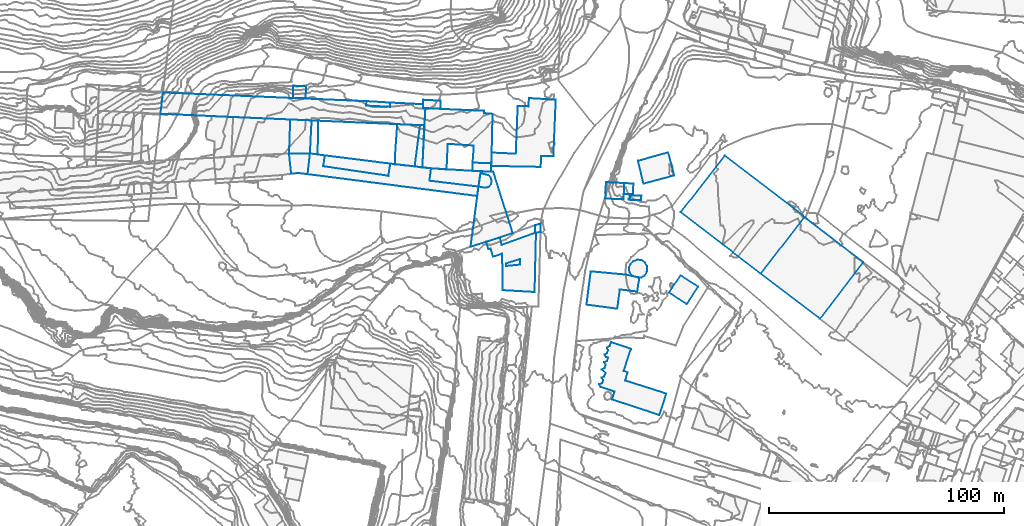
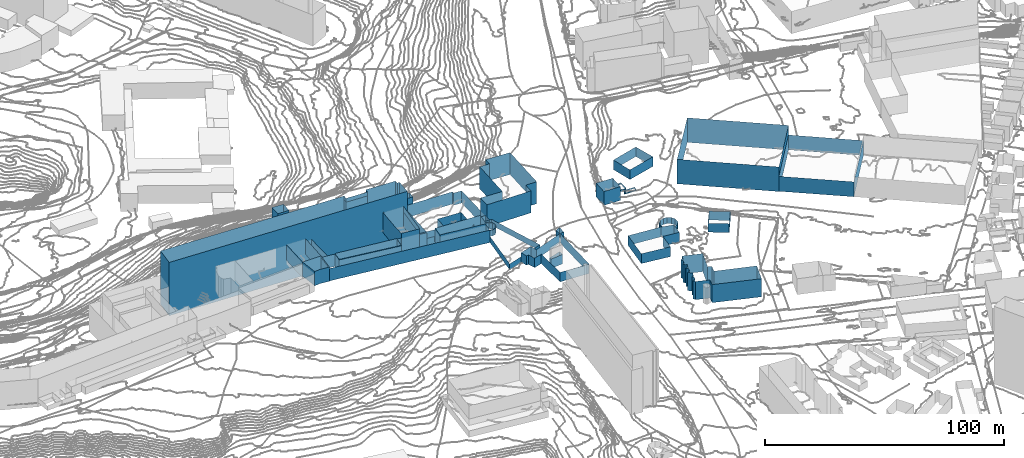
# Not in any storey, part 44 of 419: 28 walls.
"""IFC2X3 model written with IfcOpenShell, lengths in metres."""

from ifc_helpers import new_model, si_unit, frame, origin_with_axes, place, context, subcontext, project, faceted_brep, element, save


model = new_model("IFC2X3")

# Units and contexts
model_context = context("Model", 3, precision=1e-05, world=origin_with_axes())
body_context = subcontext(model_context, "Body", "Model", "MODEL_VIEW")
ifc_project = project(units=[si_unit("AREAUNIT", "SQUARE_METRE"), si_unit("LENGTHUNIT", "METRE")], contexts=[model_context])

# Walls
wall_1_placement = place(None, frame((724.8920204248, 307.2976909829, 79.5649978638), z_axis=(0.0, 0.0, 1.0), x_axis=(1.0, 0.0, 0.0)))
element("IfcWall", 1, at=wall_1_placement, Name="Mur 0", context=body_context, shape_type="Brep", body=[
    faceted_brep([(3.8999999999, -0.2000000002, 0.9350021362), (0.0, 0.0, 0.9350021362), (3.8999999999, -0.2000000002, 0.0), (0.0, 0.0, 0.0), (4.1, 4.3999999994, 0.9350021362), (4.1, 4.3999999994, 0.0), (0.2, 4.5999999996, 0.9350021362), (0.2, 4.5999999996, 0.0)], [[[0, 1, 2]], [[2, 1, 3]], [[4, 0, 5]], [[5, 0, 2]], [[1, 6, 3]], [[3, 6, 7]], [[6, 4, 7]], [[7, 4, 5]]]),
])
wall_2_placement = place(None, frame((582.2920204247, 324.4976909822, 76.1870000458), z_axis=(0.0, 0.0, 1.0), x_axis=(1.0, 0.0, 0.0)))
element("IfcWall", 2, at=wall_2_placement, Name="Mur 0", context=body_context, shape_type="Brep", body=[
    faceted_brep([(8.9, 0.0, 7.3129999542), (7.9, -8.7999999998, 7.3129999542), (8.9, 0.0, 0.0), (7.9, -8.7999999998, 0.0), (0.0, 0.0, 7.3129999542), (0.0, 0.0, 0.0), (0.9, -8.5999999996, 7.3129999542), (0.9, -8.5999999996, 0.0), (3.7000000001, -8.2999999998, 7.3129999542), (3.7000000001, -8.2999999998, 0.0)], [[[0, 1, 2]], [[2, 1, 3]], [[4, 0, 5]], [[5, 0, 2]], [[6, 4, 7]], [[7, 4, 5]], [[1, 8, 3]], [[3, 8, 9]], [[8, 6, 9]], [[9, 6, 7]]]),
])
wall_3_placement = place(None, frame((662.9920204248, 310.3976909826, 76.4266980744), z_axis=(0.0, 0.0, 1.0), x_axis=(1.0, 0.0, 0.0)))
element("IfcWall", 3, at=wall_3_placement, Name="Mur 0", context=body_context, shape_type="Brep", body=[
    faceted_brep([(3.0, -0.5, 3.3733019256), (0.0, 0.0, 3.3733019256), (3.0, -0.5, 0.0), (0.0, 0.0, 0.0), (4.2999999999, -0.0999999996, 3.3733019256), (4.2999999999, -0.0999999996, 0.0), (5.2999999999, 1.0, 3.3733019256), (5.2999999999, 1.0, 0.0), (5.6, 2.5, 3.3733019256), (5.6, 2.5, 0.0), (5.2, 3.9000000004, 3.3733019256), (5.2, 3.9000000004, 0.0), (4.1, 4.9000000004, 3.3733019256), (4.1, 4.9000000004, 0.0), (0.9, 5.7000000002, 3.3733019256), (0.9, 5.7000000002, 0.0)], [[[0, 1, 2]], [[2, 1, 3]], [[4, 0, 5]], [[5, 0, 2]], [[6, 4, 7]], [[7, 4, 5]], [[8, 6, 9]], [[9, 6, 7]], [[10, 8, 11]], [[11, 8, 9]], [[12, 10, 13]], [[13, 10, 11]], [[1, 14, 3]], [[3, 14, 15]], [[14, 12, 15]], [[15, 12, 13]]]),
])
wall_4_placement = place(None, frame((627.3920204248, 319.8976909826, 74.774999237), z_axis=(0.0, 0.0, 1.0), x_axis=(1.0, 0.0, 0.0)))
element("IfcWall", 4, at=wall_4_placement, Name="Mur 0", context=body_context, shape_type="Brep", body=[
    faceted_brep([(0.0, 0.0, 10.325000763), (0.2, 6.4000000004, 10.325000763), (0.0, 0.0, 0.0), (0.2, 6.4000000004, 0.0), (8.3999999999, -0.9000000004, 10.325000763), (8.3999999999, -0.9000000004, 0.0), (10.7, 16.7000000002, 10.325000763), (10.7, 16.7000000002, 0.0), (1.0, 17.0999999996, 10.325000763), (1.0, 17.0999999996, 0.0)], [[[0, 1, 2]], [[2, 1, 3]], [[4, 0, 5]], [[5, 0, 2]], [[6, 4, 7]], [[7, 4, 5]], [[1, 8, 3]], [[3, 8, 9]], [[8, 6, 9]], [[9, 6, 7]]]),
])
wall_5_placement = place(None, frame((749.0920204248, 299.4976909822, 80.233997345), z_axis=(0.0, 0.0, 1.0), x_axis=(1.0, 0.0, 0.0)))
element("IfcWall", 5, at=wall_5_placement, Name="Mur 0", context=body_context, shape_type="Brep", body=[
    faceted_brep([(18.8, 24.1000000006, 12.566002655), (52.1, -1.3999999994, 12.566002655), (18.8, 24.1000000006, 0.0), (52.1, -1.3999999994, 0.0), (0.0, 0.0, 12.566002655), (0.0, 0.0, 0.0), (34.1, -26.1999999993, 12.566002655), (34.1, -26.1999999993, 0.0), (52.7, -2.0, 12.566002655), (52.7, -2.0, 0.0)], [[[0, 1, 2]], [[2, 1, 3]], [[4, 0, 5]], [[5, 0, 2]], [[6, 4, 7]], [[7, 4, 5]], [[1, 8, 3]], [[3, 8, 9]], [[8, 6, 9]], [[9, 6, 7]]]),
])
wall_6_placement = place(None, frame((783.1920204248, 273.2976909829, 80.3804008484), z_axis=(0.0, 0.0, 1.0), x_axis=(1.0, 0.0, 0.0)))
element("IfcWall", 6, at=wall_6_placement, Name="Mur 0", context=body_context, shape_type="Brep", body=[
    faceted_brep([(0.0, 0.0, 7.6195991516), (18.6, 24.1999999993, 7.6195991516), (0.0, 0.0, 0.0), (18.6, 24.1999999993, 0.0), (25.2000000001, -19.2000000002, 7.6195991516), (25.2000000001, -19.2000000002, 0.0), (43.7000000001, 4.8999999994, 7.6195991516), (43.7000000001, 4.8999999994, 0.0)], [[[0, 1, 2]], [[2, 1, 3]], [[4, 0, 5]], [[5, 0, 2]], [[1, 6, 3]], [[3, 6, 7]], [[6, 4, 7]], [[7, 4, 5]]]),
])
wall_7_placement = place(None, frame((726.8920204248, 304.7976909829, 79.458000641), z_axis=(0.0, 0.0, 1.0), x_axis=(1.0, 0.0, 0.0)))
element("IfcWall", 7, at=wall_7_placement, Name="Mur 0", context=body_context, shape_type="Brep", body=[
    faceted_brep([(0.7, 1.8999999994, 0.641999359), (5.5, 1.6999999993, 0.641999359), (0.7, 1.8999999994, 0.0), (5.5, 1.6999999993, 0.0), (0.6, 0.5, 0.641999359), (0.6, 0.5, 0.0), (0.0, 0.5, 0.641999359), (0.0, 0.5, 0.0), (0.0, 0.0, 0.641999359), (0.0, 0.0, 0.0), (5.2999999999, -0.2000000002, 0.641999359), (5.2999999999, -0.2000000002, 0.0)], [[[0, 1, 2]], [[2, 1, 3]], [[4, 0, 5]], [[5, 0, 2]], [[6, 4, 7]], [[7, 4, 5]], [[8, 6, 9]], [[9, 6, 7]], [[1, 10, 3]], [[3, 10, 11]], [[10, 8, 11]], [[11, 8, 9]]]),
])
wall_8_placement = place(None, frame((615.0920204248, 344.8976909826, 72.5699978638), z_axis=(0.0, 0.0, 1.0), x_axis=(1.0, 0.0, 0.0)))
element("IfcWall", 8, at=wall_8_placement, Name="Mur 0", context=body_context, shape_type="Brep", body=[
    faceted_brep([(0.0, 0.0, 17.6300021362), (0.2, 1.9000000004, 17.6300021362), (0.0, 0.0, 0.0), (0.2, 1.9000000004, 0.0), (10.2, -0.5, 17.6300021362), (10.2, -0.5, 0.0), (10.3, 1.2999999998, 17.6300021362), (10.3, 1.2999999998, 0.0)], [[[0, 1, 2]], [[2, 1, 3]], [[4, 0, 5]], [[5, 0, 2]], [[1, 6, 3]], [[3, 6, 7]], [[6, 4, 7]], [[7, 4, 5]]]),
])
wall_9_placement = place(None, frame((583.9920204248, 348.1976909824, 71.1299972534), z_axis=(0.0, 0.0, 1.0), x_axis=(1.0, 0.0, 0.0)))
element("IfcWall", 9, at=wall_9_placement, Name="Mur 0", context=body_context, shape_type="Brep", body=[
    faceted_brep([(5.2999999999, -0.2000000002, 22.0700027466), (0.0, 0.0, 22.0700027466), (5.2999999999, -0.2000000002, 0.0), (0.0, 0.0, 0.0), (5.6, 4.9000000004, 22.0700027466), (5.6, 4.9000000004, 0.0), (0.1, 5.2000000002, 22.0700027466), (0.1, 5.2000000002, 0.0)], [[[0, 1, 2]], [[2, 1, 3]], [[4, 0, 5]], [[5, 0, 2]], [[1, 6, 3]], [[3, 6, 7]], [[6, 4, 7]], [[7, 4, 5]]]),
])
wall_10_placement = place(None, frame((660.4920204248, 317.0976909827, 76.4400024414), z_axis=(0.0, 0.0, 1.0), x_axis=(1.0, 0.0, 0.0)))
element("IfcWall", 10, at=wall_10_placement, Name="Mur 0", context=body_context, shape_type="Brep", body=[
    faceted_brep([(8.0, 3.2999999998, 3.1599975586), (7.7999999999, 0.0999999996, 3.1599975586), (8.0, 3.2999999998, 0.0), (7.7999999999, 0.0999999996, 0.0), (0.0, 3.5, 3.1599975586), (0.0, 3.5, 0.0), (0.0, 0.0, 3.1599975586), (0.0, 0.0, 0.0), (7.7, -0.2999999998, 3.1599975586), (7.7, -0.2999999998, 0.0)], [[[0, 1, 2]], [[2, 1, 3]], [[4, 0, 5]], [[5, 0, 2]], [[6, 4, 7]], [[7, 4, 5]], [[1, 8, 3]], [[3, 8, 9]], [[8, 6, 9]], [[9, 6, 7]]]),
])
wall_11_placement = place(None, frame((714.3920204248, 226.1976909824, 78.0216014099), z_axis=(0.0, 0.0, 1.0), x_axis=(1.0, 0.0, 0.0)))
element("IfcWall", 11, at=wall_11_placement, Name="Mur 0", context=body_context, shape_type="Brep", body=[
    faceted_brep([(6.5, -3.0999999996, 9.2783985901), (5.2, -2.7000000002, 9.2783985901), (6.5, -3.0999999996, 0.0), (5.2, -2.7000000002, 0.0), (5.5, -6.5, 9.2783985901), (5.5, -6.5, 0.0), (25.6, -13.0999999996, 9.2783985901), (25.6, -13.0999999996, 0.0), (28.6, -4.0, 9.2783985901), (28.6, -4.0, 0.0), (11.1, 1.6000000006, 9.2783985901), (11.1, 1.6000000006, 0.0), (12.1, 5.1000000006, 9.2783985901), (12.1, 5.1000000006, 0.0), (10.3999999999, 5.7000000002, 9.2783985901), (10.3999999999, 5.7000000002, 0.0), (13.5, 15.1000000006, 9.2783985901), (13.5, 15.1000000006, 0.0), (5.0, 17.9000000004, 9.2783985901), (5.0, 17.9000000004, 0.0), (4.5, 16.2999999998, 9.2783985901), (4.5, 16.2999999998, 0.0), (3.2999999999, 15.7000000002, 9.2783985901), (3.2999999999, 15.7000000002, 0.0), (3.7999999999, 14.5, 9.2783985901), (3.7999999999, 14.5, 0.0), (3.2999999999, 13.2999999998, 9.2783985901), (3.2999999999, 13.2999999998, 0.0), (2.3999999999, 12.7000000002, 9.2783985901), (2.3999999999, 12.7000000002, 0.0), (2.8999999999, 11.7000000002, 9.2783985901), (2.8999999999, 11.7000000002, 0.0), (3.7999999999, 11.4000000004, 9.2783985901), (3.7999999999, 11.4000000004, 0.0), (3.2999999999, 10.0, 9.2783985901), (3.2999999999, 10.0, 0.0), (2.1, 9.4000000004, 9.2783985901), (2.1, 9.4000000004, 0.0), (2.7999999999, 8.2999999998, 9.2783985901), (2.7999999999, 8.2999999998, 0.0), (2.2999999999, 6.9000000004, 9.2783985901), (2.2999999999, 6.9000000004, 0.0), (1.1, 6.2999999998, 9.2783985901), (1.1, 6.2999999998, 0.0), (2.7, 4.7999999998, 9.2783985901), (2.7, 4.7999999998, 0.0), (2.1, 3.2999999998, 9.2783985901), (2.1, 3.2999999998, 0.0), (1.1, 2.7999999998, 9.2783985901), (1.1, 2.7999999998, 0.0), (1.7, 1.7999999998, 9.2783985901), (1.7, 1.7999999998, 0.0), (1.2999999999, 0.5, 9.2783985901), (1.2999999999, 0.5, 0.0), (0.0, 0.0, 9.2783985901), (0.0, 0.0, 0.0), (0.7, -1.0999999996, 9.2783985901), (0.7, -1.0999999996, 0.0)], [[[0, 1, 2]], [[2, 1, 3]], [[4, 0, 5]], [[5, 0, 2]], [[6, 4, 7]], [[7, 4, 5]], [[8, 6, 9]], [[9, 6, 7]], [[10, 8, 11]], [[11, 8, 9]], [[12, 10, 13]], [[13, 10, 11]], [[14, 12, 15]], [[15, 12, 13]], [[16, 14, 17]], [[17, 14, 15]], [[18, 16, 19]], [[19, 16, 17]], [[20, 18, 21]], [[21, 18, 19]], [[22, 20, 23]], [[23, 20, 21]], [[24, 22, 25]], [[25, 22, 23]], [[26, 24, 27]], [[27, 24, 25]], [[28, 26, 29]], [[29, 26, 27]], [[30, 28, 31]], [[31, 28, 29]], [[32, 30, 33]], [[33, 30, 31]], [[34, 32, 35]], [[35, 32, 33]], [[36, 34, 37]], [[37, 34, 35]], [[38, 36, 39]], [[39, 36, 37]], [[40, 38, 41]], [[41, 38, 39]], [[42, 40, 43]], [[43, 40, 41]], [[44, 42, 45]], [[45, 42, 43]], [[46, 44, 47]], [[47, 44, 45]], [[48, 46, 49]], [[49, 46, 47]], [[50, 48, 51]], [[51, 48, 49]], [[52, 50, 53]], [[53, 50, 51]], [[54, 52, 55]], [[55, 52, 53]], [[1, 56, 3]], [[3, 56, 57]], [[56, 54, 57]], [[57, 54, 55]]]),
])
wall_12_placement = place(None, frame((590.1920204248, 315.6976909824, 76.3650003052), z_axis=(0.0, 0.0, 1.0), x_axis=(1.0, 0.0, 0.0)))
element("IfcWall", 12, at=wall_12_placement, Name="Mur 0", context=body_context, shape_type="Brep", body=[
    faceted_brep([(72.8, -5.2999999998, 6.3349996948), (72.2000000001, -9.2999999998, 6.3349996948), (72.8, -5.2999999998, 0.0), (72.2000000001, -9.2999999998, 0.0), (51.9, -2.7999999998, 6.3349996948), (51.9, -2.7999999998, 0.0), (52.6, 2.5, 6.3349996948), (52.6, 2.5, 0.0), (35.2000000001, 4.5, 6.3349996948), (35.2000000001, 4.5, 0.0), (34.4, -0.7000000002, 6.3349996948), (34.4, -0.7000000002, 0.0), (6.7000000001, 3.4000000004, 6.3349996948), (6.7000000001, 3.4000000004, 0.0), (7.3, 8.0, 6.3349996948), (7.3, 8.0, 0.0), (1.0, 8.7999999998, 6.3349996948), (1.0, 8.7999999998, 0.0), (0.0, 0.0, 6.3349996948), (0.0, 0.0, 0.0)], [[[0, 1, 2]], [[2, 1, 3]], [[4, 0, 5]], [[5, 0, 2]], [[6, 4, 7]], [[7, 4, 5]], [[8, 6, 9]], [[9, 6, 7]], [[10, 8, 11]], [[11, 8, 9]], [[12, 10, 13]], [[13, 10, 11]], [[14, 12, 15]], [[15, 12, 13]], [[16, 14, 17]], [[17, 14, 15]], [[1, 18, 3]], [[3, 18, 19]], [[18, 16, 19]], [[19, 16, 17]]]),
])
wall_13_placement = place(None, frame((730.8920204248, 321.3976909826, 80.5776004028), z_axis=(0.0, 0.0, 1.0), x_axis=(1.0, 0.0, 0.0)))
element("IfcWall", 13, at=wall_13_placement, Name="Mur 0", context=body_context, shape_type="Brep", body=[
    faceted_brep([(0.0, 0.0, 4.9223995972), (12.8999999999, 3.5999999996, 4.9223995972), (0.0, 0.0, 0.0), (12.8999999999, 3.5999999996, 0.0), (2.3999999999, -9.7000000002, 4.9223995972), (2.3999999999, -9.7000000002, 0.0), (15.5, -6.2000000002, 4.9223995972), (15.5, -6.2000000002, 0.0)], [[[0, 1, 2]], [[2, 1, 3]], [[4, 0, 5]], [[5, 0, 2]], [[1, 6, 3]], [[3, 6, 7]], [[6, 4, 7]], [[7, 4, 5]]]),
])
wall_14_placement = place(None, frame((708.9920204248, 260.0976909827, 77.3778022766), z_axis=(0.0, 0.0, 1.0), x_axis=(1.0, 0.0, 0.0)))
element("IfcWall", 14, at=wall_14_placement, Name="Mur 0", context=body_context, shape_type="Brep", body=[
    faceted_brep([(16.9, 12.7999999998, 5.0221977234), (19.9, 12.0999999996, 5.0221977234), (16.9, 12.7999999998, 0.0), (19.9, 12.0999999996, 0.0), (1.7999999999, 14.2000000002, 5.0221977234), (1.7999999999, 14.2000000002, 0.0), (0.0, 0.0, 5.0221977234), (0.0, 0.0, 0.0), (13.1, -1.7000000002, 5.0221977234), (13.1, -1.7000000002, 0.0), (14.2, 6.5, 5.0221977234), (14.2, 6.5, 0.0), (21.6, 5.5999999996, 5.0221977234), (21.6, 5.5999999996, 0.0), (22.5, 11.3999999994, 5.0221977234), (22.5, 11.3999999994, 0.0)], [[[0, 1, 2]], [[2, 1, 3]], [[4, 0, 5]], [[5, 0, 2]], [[6, 4, 7]], [[7, 4, 5]], [[8, 6, 9]], [[9, 6, 7]], [[10, 8, 11]], [[11, 8, 9]], [[12, 10, 13]], [[13, 10, 11]], [[1, 14, 3]], [[3, 14, 15]], [[14, 12, 15]], [[15, 12, 13]]]),
])
wall_15_placement = place(None, frame((639.2920204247, 343.8976909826, 72.5990028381), z_axis=(0.0, 0.0, 1.0), x_axis=(1.0, 0.0, 0.0)))
element("IfcWall", 15, at=wall_15_placement, Name="Mur 0", context=body_context, shape_type="Brep", body=[
    faceted_brep([(7.5, -0.2999999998, 10.1009971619), (1.1000000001, -0.0999999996, 10.1009971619), (7.5, -0.2999999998, 0.0), (1.1000000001, -0.0999999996, 0.0), (7.6000000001, 3.0999999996, 10.1009971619), (7.6000000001, 3.0999999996, 0.0), (0.0, 3.5, 10.1009971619), (0.0, 3.5, 0.0), (0.0, 0.0, 10.1009971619), (0.0, 0.0, 0.0)], [[[0, 1, 2]], [[2, 1, 3]], [[4, 0, 5]], [[5, 0, 2]], [[6, 4, 7]], [[7, 4, 5]], [[1, 8, 3]], [[3, 8, 9]], [[8, 6, 9]], [[9, 6, 7]]]),
])
wall_16_placement = place(None, frame((642.0920204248, 312.8976909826, 76.4150009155), z_axis=(0.0, 0.0, 1.0), x_axis=(1.0, 0.0, 0.0)))
element("IfcWall", 16, at=wall_16_placement, Name="Mur 0", context=body_context, shape_type="Brep", body=[
    faceted_brep([(21.8, 4.0, 6.9849990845), (20.9, -2.5, 6.9849990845), (21.8, 4.0, 0.0), (20.9, -2.5, 0.0), (0.7, 5.2999999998, 6.9849990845), (0.7, 5.2999999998, 0.0), (0.0, 0.0, 6.9849990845), (0.0, 0.0, 0.0)], [[[0, 1, 2]], [[2, 1, 3]], [[4, 0, 5]], [[5, 0, 2]], [[1, 6, 3]], [[3, 6, 7]], [[6, 4, 7]], [[7, 4, 5]]]),
])
wall_17_placement = place(None, frame((596.8920204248, 319.0976909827, 76.4000015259), z_axis=(0.0, 0.0, 1.0), x_axis=(1.0, 0.0, 0.0)))
element("IfcWall", 17, at=wall_17_placement, Name="Mur 0", context=body_context, shape_type="Brep", body=[
    faceted_brep([(0.6, 4.5999999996, 6.5999984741), (28.5, 1.0999999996, 6.5999984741), (0.6, 4.5999999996, 0.0), (28.5, 1.0999999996, 0.0), (0.0, 0.0, 6.5999984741), (0.0, 0.0, 0.0), (27.7, -4.1000000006, 6.5999984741), (27.7, -4.1000000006, 0.0)], [[[0, 1, 2]], [[2, 1, 3]], [[4, 0, 5]], [[5, 0, 2]], [[1, 6, 3]], [[3, 6, 7]], [[6, 4, 7]], [[7, 4, 5]]]),
])
wall_18_placement = place(None, frame((659.5920204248, 284.7976909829, 76.4266980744), z_axis=(0.0, 0.0, 1.0), x_axis=(1.0, 0.0, 0.0)))
element("IfcWall", 18, at=wall_18_placement, Name="Mur 0", context=body_context, shape_type="Brep", body=[
    faceted_brep([(9.7, 32.0, 3.0733019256), (18.0, 5.7999999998, 3.0733019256), (9.7, 32.0, 0.0), (18.0, 5.7999999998, 0.0), (4.3, 32.0999999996, 3.0733019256), (4.3, 32.0999999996, 0.0), (4.3, 31.2999999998, 3.0733019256), (4.3, 31.2999999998, 0.0), (7.5, 30.5, 3.0733019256), (7.5, 30.5, 0.0), (8.6, 29.5, 3.0733019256), (8.6, 29.5, 0.0), (9.0, 28.0999999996, 3.0733019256), (9.0, 28.0999999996, 0.0), (8.7, 26.5999999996, 3.0733019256), (8.7, 26.5999999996, 0.0), (7.7, 25.5, 3.0733019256), (7.7, 25.5, 0.0), (6.4, 25.0999999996, 3.0733019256), (6.4, 25.0999999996, 0.0), (3.4, 25.5999999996, 3.0733019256), (3.4, 25.5999999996, 0.0), (0.0, 0.0, 3.0733019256), (0.0, 0.0, 0.0)], [[[0, 1, 2]], [[2, 1, 3]], [[4, 0, 5]], [[5, 0, 2]], [[6, 4, 7]], [[7, 4, 5]], [[8, 6, 9]], [[9, 6, 7]], [[10, 8, 11]], [[11, 8, 9]], [[12, 10, 13]], [[13, 10, 11]], [[14, 12, 15]], [[15, 12, 13]], [[16, 14, 17]], [[17, 14, 15]], [[18, 16, 19]], [[19, 16, 17]], [[20, 18, 21]], [[21, 18, 19]], [[1, 22, 3]], [[3, 22, 23]], [[22, 20, 23]], [[23, 20, 21]]]),
])
wall_19_placement = place(None, frame((527.4920204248, 341.3976909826, 64.9170021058), z_axis=(0.0, 0.0, 1.0), x_axis=(1.0, 0.0, 0.0)))
element("IfcWall", 19, at=wall_19_placement, Name="Mur 0", context=body_context, shape_type="Brep", body=[
    faceted_brep([(0.0, 0.0, 27.2829978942), (1.1, 9.0999999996, 27.2829978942), (0.0, 0.0, 0.0), (1.1, 9.0999999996, 0.0), (112.4, -4.9000000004, 27.2829978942), (112.4, -4.9000000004, 0.0), (112.9, 2.4000000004, 27.2829978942), (112.9, 2.4000000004, 0.0), (111.7999999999, 2.5, 27.2829978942), (111.7999999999, 2.5, 0.0), (111.7999999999, 4.0999999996, 27.2829978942), (111.7999999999, 4.0999999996, 0.0), (97.9, 4.7999999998, 27.2829978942), (97.9, 4.7999999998, 0.0), (97.7999999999, 3.0, 27.2829978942), (97.7999999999, 3.0, 0.0), (87.6, 3.5, 27.2829978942), (87.6, 3.5, 0.0), (87.7999999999, 5.4000000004, 27.2829978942), (87.7999999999, 5.4000000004, 0.0)], [[[0, 1, 2]], [[2, 1, 3]], [[4, 0, 5]], [[5, 0, 2]], [[6, 4, 7]], [[7, 4, 5]], [[8, 6, 9]], [[9, 6, 7]], [[10, 8, 11]], [[11, 8, 9]], [[12, 10, 13]], [[13, 10, 11]], [[14, 12, 15]], [[15, 12, 13]], [[16, 14, 17]], [[17, 14, 15]], [[1, 18, 3]], [[3, 18, 19]], [[18, 16, 19]], [[19, 16, 17]]]),
])
wall_20_placement = place(None, frame((635.7920204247, 318.9976909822, 74.6659996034), z_axis=(0.0, 0.0, 1.0), x_axis=(1.0, 0.0, 0.0)))
element("IfcWall", 20, at=wall_20_placement, Name="Mur 0", context=body_context, shape_type="Brep", body=[
    faceted_brep([(4.1000000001, 17.5, 7.5340003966), (3.3, -0.5, 7.5340003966), (4.1000000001, 17.5, 0.0), (3.3, -0.5, 0.0), (2.3, 17.6000000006, 7.5340003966), (2.3, 17.6000000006, 0.0), (0.0, 0.0, 7.5340003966), (0.0, 0.0, 0.0)], [[[0, 1, 2]], [[2, 1, 3]], [[4, 0, 5]], [[5, 0, 2]], [[1, 6, 3]], [[3, 6, 7]], [[6, 4, 7]], [[7, 4, 5]]]),
])
wall_21_placement = place(None, frame((582.2920204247, 324.4976909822, 75.4519998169), z_axis=(0.0, 0.0, 1.0), x_axis=(1.0, 0.0, 0.0)))
element("IfcWall", 21, at=wall_21_placement, Name="Mur 0", context=body_context, shape_type="Brep", body=[
    faceted_brep([(0.0, 0.0, 8.0480001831), (0.5, 14.5, 8.0480001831), (0.0, 0.0, 0.0), (0.5, 14.5, 0.0), (8.9, 0.0, 8.0480001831), (8.9, 0.0, 0.0), (9.6000000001, 14.1000000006, 8.0480001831), (9.6000000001, 14.1000000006, 0.0)], [[[0, 1, 2]], [[2, 1, 3]], [[4, 0, 5]], [[5, 0, 2]], [[1, 6, 3]], [[3, 6, 7]], [[6, 4, 7]], [[7, 4, 5]]]),
])
wall_22_placement = place(None, frame((716.9920204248, 305.2976909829, 76.9332013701), z_axis=(0.0, 0.0, 1.0), x_axis=(1.0, 0.0, 0.0)))
element("IfcWall", 22, at=wall_22_placement, Name="Mur 0", context=body_context, shape_type="Brep", body=[
    faceted_brep([(0.0, 0.0, 7.0667986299), (0.2999999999, 7.0, 7.0667986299), (0.0, 0.0, 0.0), (0.2999999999, 7.0, 0.0), (7.7999999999, -0.3000000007, 7.0667986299), (7.7999999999, -0.3000000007, 0.0), (8.1, 6.5999999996, 7.0667986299), (8.1, 6.5999999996, 0.0)], [[[0, 1, 2]], [[2, 1, 3]], [[4, 0, 5]], [[5, 0, 2]], [[1, 6, 3]], [[3, 6, 7]], [[6, 4, 7]], [[7, 4, 5]]]),
])
wall_23_placement = place(None, frame((727.0920204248, 275.8976909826, 78.109998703), z_axis=(0.0, 0.0, 1.0), x_axis=(1.0, 0.0, 0.0)))
element("IfcWall", 23, at=wall_23_placement, Name="Mur 0", context=body_context, shape_type="Brep", body=[
    faceted_brep([(5.1, -4.2999999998, 3.190001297), (1.8, -3.7000000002, 3.190001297), (5.1, -4.2999999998, 0.0), (1.8, -3.7000000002, 0.0), (6.6, -3.4000000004, 3.190001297), (6.6, -3.4000000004, 0.0), (7.6, -1.9000000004, 3.190001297), (7.6, -1.9000000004, 0.0), (7.7, 0.7000000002, 3.190001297), (7.7, 0.7000000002, 0.0), (6.8, 2.2000000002, 3.190001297), (6.8, 2.2000000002, 0.0), (5.3, 3.2000000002, 3.190001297), (5.3, 3.2000000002, 0.0), (3.6, 3.4000000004, 3.190001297), (3.6, 3.4000000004, 0.0), (1.9, 2.7999999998, 3.190001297), (1.9, 2.7999999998, 0.0), (0.6, 1.5999999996, 3.190001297), (0.6, 1.5999999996, 0.0), (0.0, 0.0, 3.190001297), (0.0, 0.0, 0.0), (0.2, -1.7999999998, 3.190001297), (0.2, -1.7999999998, 0.0)], [[[0, 1, 2]], [[2, 1, 3]], [[4, 0, 5]], [[5, 0, 2]], [[6, 4, 7]], [[7, 4, 5]], [[8, 6, 9]], [[9, 6, 7]], [[10, 8, 11]], [[11, 8, 9]], [[12, 10, 13]], [[13, 10, 11]], [[14, 12, 15]], [[15, 12, 13]], [[16, 14, 17]], [[17, 14, 15]], [[18, 16, 19]], [[19, 16, 17]], [[20, 18, 21]], [[21, 18, 19]], [[1, 22, 3]], [[3, 22, 23]], [[22, 20, 23]], [[23, 20, 21]]]),
])
wall_24_placement = place(None, frame((591.1920204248, 324.4976909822, 76.2636010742), z_axis=(0.0, 0.0, 1.0), x_axis=(1.0, 0.0, 0.0)))
element("IfcWall", 24, at=wall_24_placement, Name="Mur 0", context=body_context, shape_type="Brep", body=[
    faceted_brep([(3.3, -0.3999999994, 5.9363989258), (0.0, 0.0, 5.9363989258), (3.3, -0.3999999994, 0.0), (0.0, 0.0, 0.0), (3.5, 14.0, 5.9363989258), (3.5, 14.0, 0.0), (0.7000000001, 14.1000000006, 5.9363989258), (0.7000000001, 14.1000000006, 0.0)], [[[0, 1, 2]], [[2, 1, 3]], [[4, 0, 5]], [[5, 0, 2]], [[1, 6, 3]], [[3, 6, 7]], [[6, 4, 7]], [[7, 4, 5]]]),
])
wall_25_placement = place(None, frame((744.0920204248, 265.1976909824, 78.0773980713), z_axis=(0.0, 0.0, 1.0), x_axis=(1.0, 0.0, 0.0)))
element("IfcWall", 25, at=wall_25_placement, Name="Mur 0", context=body_context, shape_type="Brep", body=[
    faceted_brep([(4.9, 7.4000000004, 4.5226019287), (12.4, 2.6000000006, 4.5226019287), (4.9, 7.4000000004, 0.0), (12.4, 2.6000000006, 0.0), (0.0, 0.0, 4.5226019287), (0.0, 0.0, 0.0), (7.6, -4.7999999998, 4.5226019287), (7.6, -4.7999999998, 0.0)], [[[0, 1, 2]], [[2, 1, 3]], [[4, 0, 5]], [[5, 0, 2]], [[1, 6, 3]], [[3, 6, 7]], [[6, 4, 7]], [[7, 4, 5]]]),
])
wall_26_placement = place(None, frame((668.3920204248, 319.1976909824, 74.5608015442), z_axis=(0.0, 0.0, 1.0), x_axis=(1.0, 0.0, 0.0)))
element("IfcWall", 26, at=wall_26_placement, Name="Mur 0", context=body_context, shape_type="Brep", body=[
    faceted_brep([(10.5, 5.2000000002, 11.2391984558), (11.2999999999, 25.6000000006, 11.2391984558), (10.5, 5.2000000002, 0.0), (11.2999999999, 25.6000000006, 0.0), (0.2, 5.7000000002, 11.2391984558), (0.2, 5.7000000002, 0.0), (0.0, 0.0, 11.2391984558), (0.0, 0.0, 0.0), (21.1, -0.3999999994, 11.2391984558), (21.1, -0.3999999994, 0.0), (21.2999999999, 4.2999999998, 11.2391984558), (21.2999999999, 4.2999999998, 0.0), (26.5, 4.2000000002, 11.2391984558), (26.5, 4.2000000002, 0.0), (27.5, 28.2000000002, 11.2391984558), (27.5, 28.2000000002, 0.0), (16.1, 28.9000000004, 11.2391984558), (16.1, 28.9000000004, 0.0), (15.8999999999, 25.4000000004, 11.2391984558), (15.8999999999, 25.4000000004, 0.0)], [[[0, 1, 2]], [[2, 1, 3]], [[4, 0, 5]], [[5, 0, 2]], [[6, 4, 7]], [[7, 4, 5]], [[8, 6, 9]], [[9, 6, 7]], [[10, 8, 11]], [[11, 8, 9]], [[12, 10, 13]], [[13, 10, 11]], [[14, 12, 15]], [[15, 12, 13]], [[16, 14, 17]], [[17, 14, 15]], [[1, 18, 3]], [[3, 18, 19]], [[18, 16, 19]], [[19, 16, 17]]]),
])
wall_27_placement = place(None, frame((639.0920204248, 318.4976909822, 73.0108013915), z_axis=(0.0, 0.0, 1.0), x_axis=(1.0, 0.0, 0.0)))
element("IfcWall", 27, at=wall_27_placement, Name="Mur 0", context=body_context, shape_type="Brep", body=[
    faceted_brep([(29.9, 22.9000000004, 6.2891986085), (29.4, 1.9000000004, 6.2891986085), (29.9, 22.9000000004, 0.0), (29.4, 1.9000000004, 0.0), (26.2, 23.2000000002, 6.2891986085), (26.2, 23.2000000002, 0.0), (26.2, 24.2000000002, 6.2891986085), (26.2, 24.2000000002, 0.0), (1.3, 25.3000000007, 6.2891986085), (1.3, 25.3000000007, 0.0), (0.0, 0.0, 6.2891986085), (0.0, 0.0, 0.0), (10.3, -0.7999999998, 6.2891986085), (10.3, -0.7999999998, 0.0), (10.8, 10.1000000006, 6.2891986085), (10.8, 10.1000000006, 0.0), (21.9, 9.4000000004, 6.2891986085), (21.9, 9.4000000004, 0.0), (21.4, 2.1000000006, 6.2891986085), (21.4, 2.1000000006, 0.0)], [[[0, 1, 2]], [[2, 1, 3]], [[4, 0, 5]], [[5, 0, 2]], [[6, 4, 7]], [[7, 4, 5]], [[8, 6, 9]], [[9, 6, 7]], [[10, 8, 11]], [[11, 8, 9]], [[12, 10, 13]], [[13, 10, 11]], [[14, 12, 15]], [[15, 12, 13]], [[16, 14, 17]], [[17, 14, 15]], [[1, 18, 3]], [[3, 18, 19]], [[18, 16, 19]], [[19, 16, 17]]]),
])
wall_28_placement = place(None, frame((666.2920204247, 286.8976909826, 76.7629981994), z_axis=(0.0, 0.0, 1.0), x_axis=(1.0, 0.0, 0.0)))
element("IfcWall", 28, at=wall_28_placement, Name="Mur 0", context=body_context, shape_type="Brep", body=[
    faceted_brep([(20.9, 7.0999999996, 4.8370018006), (23.2000000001, 7.7999999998, 4.8370018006), (20.9, 7.0999999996, 0.0), (23.2000000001, 7.7999999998, 0.0), (20.9, 3.9000000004, 4.8370018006), (20.9, 3.9000000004, 0.0), (6.6000000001, -1.2999999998, 4.8370018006), (6.6000000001, -1.2999999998, 0.0), (5.8, 1.9000000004, 4.8370018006), (5.8, 1.9000000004, 0.0), (0.0, 0.0, 4.8370018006), (0.0, 0.0, 0.0), (0.9, -3.0999999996, 4.8370018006), (0.9, -3.0999999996, 0.0), (1.9, -2.9000000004, 4.8370018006), (1.9, -2.9000000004, 0.0), (2.9, -6.2999999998, 4.8370018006), (2.9, -6.2999999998, 0.0), (6.8, -5.0999999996, 4.8370018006), (6.8, -5.0999999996, 0.0), (7.0, -20.5999999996, 4.8370018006), (7.0, -20.5999999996, 0.0), (20.6000000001, -21.4000000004, 4.8370018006), (20.6000000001, -21.4000000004, 0.0), (21.2000000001, 3.9000000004, 4.8370018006), (21.2000000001, 3.9000000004, 0.0), (23.1000000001, 4.2000000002, 4.8370018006), (23.1000000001, 4.2000000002, 0.0), (14.5, -9.7000000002, 4.8370018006), (14.4, -7.2999999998, 4.8370018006), (14.5, -9.7000000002, 0.0), (14.4, -7.2999999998, 0.0), (8.5, -10.2999999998, 4.8370018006), (8.5, -10.2999999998, 0.0), (8.5, -9.2000000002, 4.8370018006), (8.5, -9.2000000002, 0.0)], [[[0, 1, 2]], [[2, 1, 3]], [[4, 0, 5]], [[5, 0, 2]], [[6, 4, 7]], [[7, 4, 5]], [[8, 6, 9]], [[9, 6, 7]], [[10, 8, 11]], [[11, 8, 9]], [[12, 10, 13]], [[13, 10, 11]], [[14, 12, 15]], [[15, 12, 13]], [[16, 14, 17]], [[17, 14, 15]], [[18, 16, 19]], [[19, 16, 17]], [[20, 18, 21]], [[21, 18, 19]], [[22, 20, 23]], [[23, 20, 21]], [[24, 22, 25]], [[25, 22, 23]], [[1, 26, 3]], [[3, 26, 27]], [[26, 24, 27]], [[27, 24, 25]], [[28, 29, 30]], [[30, 29, 31]], [[32, 28, 33]], [[33, 28, 30]], [[29, 34, 31]], [[31, 34, 35]], [[34, 32, 35]], [[35, 32, 33]]]),
])

save(model, "model.ifc")
